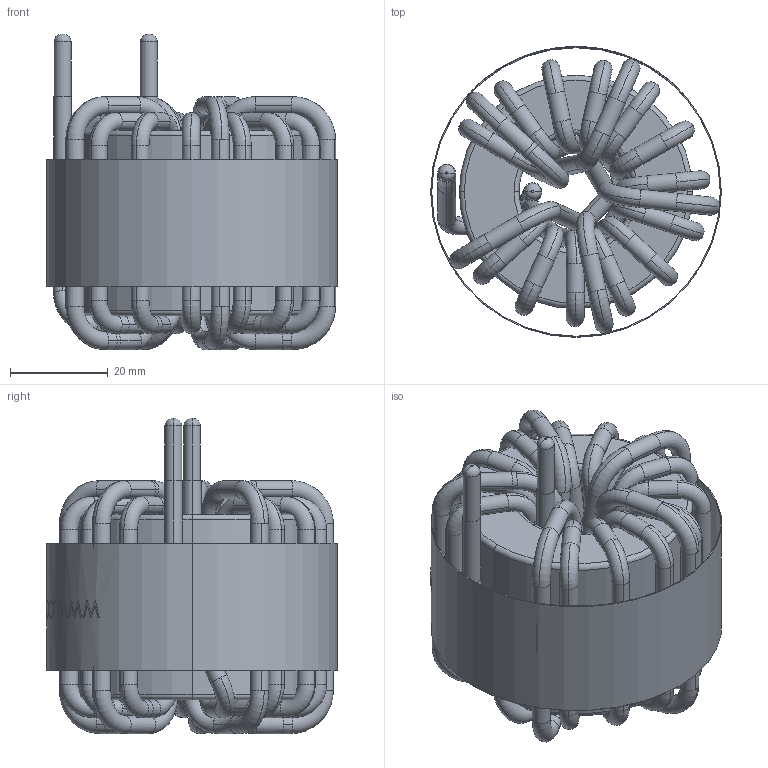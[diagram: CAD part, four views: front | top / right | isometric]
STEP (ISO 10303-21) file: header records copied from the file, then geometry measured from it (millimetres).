
FILE_DESCRIPTION (( 'STEP AP214' ), '1' );
FILE_NAME ('HF4672-101M-50AH.STEP', '2021-04-17T07:43:37', ( '' ), ( '' ), 'SwSTEP 2.0', 'SolidWorks 2015', '' );
FILE_SCHEMA (( 'AUTOMOTIVE_DESIGN' ));
Length unit declared in the file: millimetre
Products named in the file (4): HF4672-101M-50AH; WRAPPER; CORE; WINDING
Assembly tree (3 placements, depth 2):
  HF4672-101M-50AH
    CORE
    WINDING
    WRAPPER
Bounding box: 59.34 x 59.36 x 64.38 mm (x, y, z)
Volume: 81068 mm3; surface area: 52623.2 mm2
Topology: 19 solids, 19 shells, 643 faces, 1664 edges, 1072 vertices
Faces by surface type: cylinder 256, torus 205, bspline 103, plane 79
Entity records: 34541 total; most frequent: CARTESIAN_POINT 14161, DIRECTION 3438, ORIENTED_EDGE 3328, EDGE_CURVE 1664, AXIS2_PLACEMENT_3D 1589, VERTEX_POINT 1072, CIRCLE 1043, EDGE_LOOP 668
